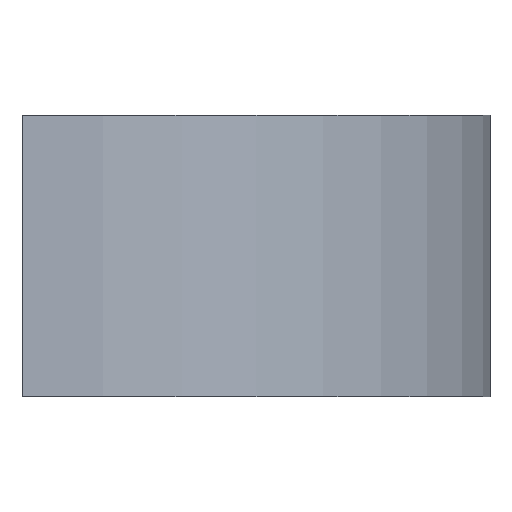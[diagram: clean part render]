
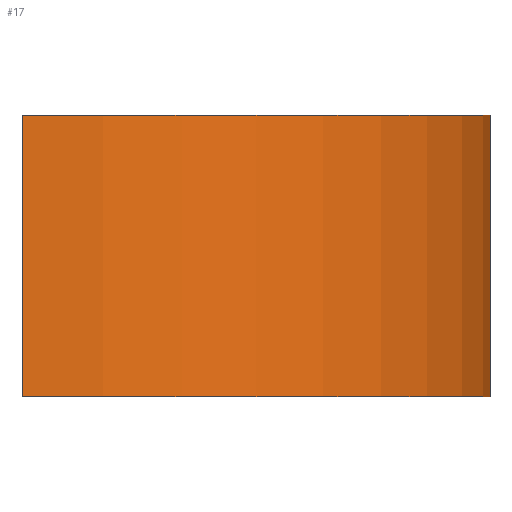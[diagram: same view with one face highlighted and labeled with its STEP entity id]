
A CAD part, front view. The second image highlights one B-rep face of the part: STEP entity #17.
In plain terms, the highlighted cylindrical face has radius 4.99 mm (diameter 9.98 mm), a partial arc.
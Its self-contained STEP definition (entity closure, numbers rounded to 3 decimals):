
#17 = ADVANCED_FACE('',(#18),#32,.T.);
#18 = FACE_BOUND('',#19,.T.);
#19 = EDGE_LOOP('',(#20,#55,#84,#110));
#20 = ORIENTED_EDGE('',*,*,#21,.T.);
#21 = EDGE_CURVE('',#22,#24,#26,.T.);
#22 = VERTEX_POINT('',#23);
#23 = CARTESIAN_POINT('',(4.99,0.,-3.9));
#24 = VERTEX_POINT('',#25);
#25 = CARTESIAN_POINT('',(4.99,0.,-0.9));
#26 = SURFACE_CURVE('',#27,(#31,#43),.PCURVE_S1.);
#27 = LINE('',#28,#29);
#28 = CARTESIAN_POINT('',(4.99,0.,-3.9));
#29 = VECTOR('',#30,1.);
#30 = DIRECTION('',(0.,0.,1.));
#31 = PCURVE('',#32,#37);
#32 = CYLINDRICAL_SURFACE('',#33,4.99);
#33 = AXIS2_PLACEMENT_3D('',#34,#35,#36);
#34 = CARTESIAN_POINT('',(0.,0.,-3.9));
#35 = DIRECTION('',(0.,0.,1.));
#36 = DIRECTION('',(1.,0.,-0.));
#37 = DEFINITIONAL_REPRESENTATION('',(#38),#42);
#38 = LINE('',#39,#40);
#39 = CARTESIAN_POINT('',(6.283,-0.));
#40 = VECTOR('',#41,1.);
#41 = DIRECTION('',(0.,1.));
#42 = ( GEOMETRIC_REPRESENTATION_CONTEXT(2) 
PARAMETRIC_REPRESENTATION_CONTEXT() REPRESENTATION_CONTEXT('2D SPACE',''
  ) );
#43 = PCURVE('',#44,#49);
#44 = CYLINDRICAL_SURFACE('',#45,4.99);
#45 = AXIS2_PLACEMENT_3D('',#46,#47,#48);
#46 = CARTESIAN_POINT('',(0.,0.,-3.9));
#47 = DIRECTION('',(0.,0.,1.));
#48 = DIRECTION('',(1.,0.,-0.));
#49 = DEFINITIONAL_REPRESENTATION('',(#50),#54);
#50 = LINE('',#51,#52);
#51 = CARTESIAN_POINT('',(0.,-0.));
#52 = VECTOR('',#53,1.);
#53 = DIRECTION('',(0.,1.));
#54 = ( GEOMETRIC_REPRESENTATION_CONTEXT(2) 
PARAMETRIC_REPRESENTATION_CONTEXT() REPRESENTATION_CONTEXT('2D SPACE',''
  ) );
#55 = ORIENTED_EDGE('',*,*,#56,.F.);
#56 = EDGE_CURVE('',#57,#24,#59,.T.);
#57 = VERTEX_POINT('',#58);
#58 = CARTESIAN_POINT('',(0.,-4.99,-0.9));
#59 = SURFACE_CURVE('',#60,(#65,#72),.PCURVE_S1.);
#60 = CIRCLE('',#61,4.99);
#61 = AXIS2_PLACEMENT_3D('',#62,#63,#64);
#62 = CARTESIAN_POINT('',(0.,0.,-0.9));
#63 = DIRECTION('',(0.,0.,1.));
#64 = DIRECTION('',(1.,0.,-0.));
#65 = PCURVE('',#32,#66);
#66 = DEFINITIONAL_REPRESENTATION('',(#67),#71);
#67 = LINE('',#68,#69);
#68 = CARTESIAN_POINT('',(0.,3.));
#69 = VECTOR('',#70,1.);
#70 = DIRECTION('',(1.,0.));
#71 = ( GEOMETRIC_REPRESENTATION_CONTEXT(2) 
PARAMETRIC_REPRESENTATION_CONTEXT() REPRESENTATION_CONTEXT('2D SPACE',''
  ) );
#72 = PCURVE('',#73,#78);
#73 = PLANE('',#74);
#74 = AXIS2_PLACEMENT_3D('',#75,#76,#77);
#75 = CARTESIAN_POINT('',(0.,0.,-0.9));
#76 = DIRECTION('',(0.,0.,1.));
#77 = DIRECTION('',(1.,0.,-0.));
#78 = DEFINITIONAL_REPRESENTATION('',(#79),#83);
#79 = CIRCLE('',#80,4.99);
#80 = AXIS2_PLACEMENT_2D('',#81,#82);
#81 = CARTESIAN_POINT('',(0.,0.));
#82 = DIRECTION('',(1.,0.));
#83 = ( GEOMETRIC_REPRESENTATION_CONTEXT(2) 
PARAMETRIC_REPRESENTATION_CONTEXT() REPRESENTATION_CONTEXT('2D SPACE',''
  ) );
#84 = ORIENTED_EDGE('',*,*,#85,.F.);
#85 = EDGE_CURVE('',#86,#57,#88,.T.);
#86 = VERTEX_POINT('',#87);
#87 = CARTESIAN_POINT('',(0.,-4.99,-3.9));
#88 = SURFACE_CURVE('',#89,(#93,#99),.PCURVE_S1.);
#89 = LINE('',#90,#91);
#90 = CARTESIAN_POINT('',(0.,-4.99,-3.9));
#91 = VECTOR('',#92,1.);
#92 = DIRECTION('',(0.,0.,1.));
#93 = PCURVE('',#32,#94);
#94 = DEFINITIONAL_REPRESENTATION('',(#95),#98);
#95 = B_SPLINE_CURVE_WITH_KNOTS('',1,(#96,#97),.UNSPECIFIED.,.F.,.F.,(2,
    2),(0.,3.),.PIECEWISE_BEZIER_KNOTS.);
#96 = CARTESIAN_POINT('',(4.712,0.));
#97 = CARTESIAN_POINT('',(4.712,3.));
#98 = ( GEOMETRIC_REPRESENTATION_CONTEXT(2) 
PARAMETRIC_REPRESENTATION_CONTEXT() REPRESENTATION_CONTEXT('2D SPACE',''
  ) );
#99 = PCURVE('',#100,#105);
#100 = PLANE('',#101);
#101 = AXIS2_PLACEMENT_3D('',#102,#103,#104);
#102 = CARTESIAN_POINT('',(0.,-50.,-50.));
#103 = DIRECTION('',(1.,0.,0.));
#104 = DIRECTION('',(0.,0.,1.));
#105 = DEFINITIONAL_REPRESENTATION('',(#106),#109);
#106 = B_SPLINE_CURVE_WITH_KNOTS('',1,(#107,#108),.UNSPECIFIED.,.F.,.F.,
  (2,2),(0.,3.),.PIECEWISE_BEZIER_KNOTS.);
#107 = CARTESIAN_POINT('',(46.1,-45.01));
#108 = CARTESIAN_POINT('',(49.1,-45.01));
#109 = ( GEOMETRIC_REPRESENTATION_CONTEXT(2) 
PARAMETRIC_REPRESENTATION_CONTEXT() REPRESENTATION_CONTEXT('2D SPACE',''
  ) );
#110 = ORIENTED_EDGE('',*,*,#111,.T.);
#111 = EDGE_CURVE('',#86,#22,#112,.T.);
#112 = SURFACE_CURVE('',#113,(#118,#125),.PCURVE_S1.);
#113 = CIRCLE('',#114,4.99);
#114 = AXIS2_PLACEMENT_3D('',#115,#116,#117);
#115 = CARTESIAN_POINT('',(0.,0.,-3.9));
#116 = DIRECTION('',(0.,0.,1.));
#117 = DIRECTION('',(1.,0.,-0.));
#118 = PCURVE('',#32,#119);
#119 = DEFINITIONAL_REPRESENTATION('',(#120),#124);
#120 = LINE('',#121,#122);
#121 = CARTESIAN_POINT('',(0.,0.));
#122 = VECTOR('',#123,1.);
#123 = DIRECTION('',(1.,0.));
#124 = ( GEOMETRIC_REPRESENTATION_CONTEXT(2) 
PARAMETRIC_REPRESENTATION_CONTEXT() REPRESENTATION_CONTEXT('2D SPACE',''
  ) );
#125 = PCURVE('',#126,#131);
#126 = PLANE('',#127);
#127 = AXIS2_PLACEMENT_3D('',#128,#129,#130);
#128 = CARTESIAN_POINT('',(0.,0.,-3.9));
#129 = DIRECTION('',(0.,0.,1.));
#130 = DIRECTION('',(1.,0.,-0.));
#131 = DEFINITIONAL_REPRESENTATION('',(#132),#136);
#132 = CIRCLE('',#133,4.99);
#133 = AXIS2_PLACEMENT_2D('',#134,#135);
#134 = CARTESIAN_POINT('',(0.,0.));
#135 = DIRECTION('',(1.,0.));
#136 = ( GEOMETRIC_REPRESENTATION_CONTEXT(2) 
PARAMETRIC_REPRESENTATION_CONTEXT() REPRESENTATION_CONTEXT('2D SPACE',''
  ) );
